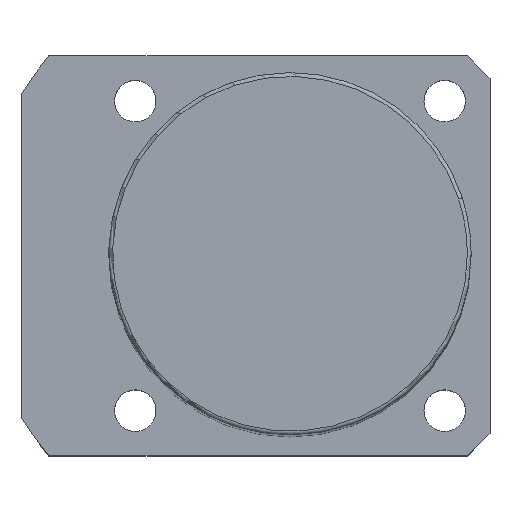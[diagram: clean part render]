
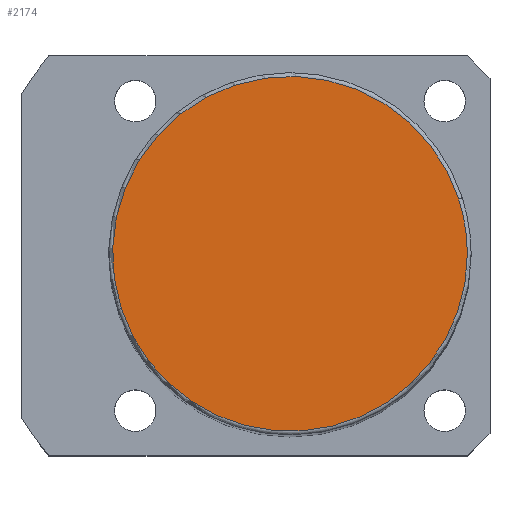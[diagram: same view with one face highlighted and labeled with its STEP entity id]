
A CAD part, top view. The second image highlights one B-rep face of the part: STEP entity #2174.
In plain terms, the highlighted planar face has unit normal (0, 0, 1).
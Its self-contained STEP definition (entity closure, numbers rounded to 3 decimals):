
#2107=CARTESIAN_POINT('',(22.35,7.262,169.0));
#2108=VERTEX_POINT('',#2107);
#2126=CARTESIAN_POINT('',(-22.35,-7.262,169.0));
#2127=VERTEX_POINT('',#2126);
#2135=CARTESIAN_POINT('',(0.0,0.0,169.0));
#2136=DIRECTION('',(0.0,0.0,1.0));
#2137=DIRECTION('',(1.0,0.0,0.0));
#2138=AXIS2_PLACEMENT_3D('',#2135,#2136,#2137);
#2139=CIRCLE('',#2138,23.5);
#2140=EDGE_CURVE('no 2139',#2108,#2127,#2139,.T.);
#2150=CARTESIAN_POINT('',(23.5,0.0,169.0));
#2151=VERTEX_POINT('',#2150);
#2152=CARTESIAN_POINT('',(0.0,0.0,169.0));
#2153=DIRECTION('',(0.0,0.0,1.0));
#2154=DIRECTION('',(1.0,0.0,0.0));
#2155=AXIS2_PLACEMENT_3D('',#2152,#2153,#2154);
#2156=CIRCLE('',#2155,23.5);
#2157=EDGE_CURVE('no 2148',#2151,#2108,#2156,.T.);
#2158=ORIENTED_EDGE('',*,*,#2157,.T.);
#2159=ORIENTED_EDGE('',*,*,#2140,.T.);
#2160=CARTESIAN_POINT('',(0.0,0.0,169.0));
#2161=DIRECTION('',(0.0,0.0,1.0));
#2162=DIRECTION('',(1.0,0.0,0.0));
#2163=AXIS2_PLACEMENT_3D('',#2160,#2161,#2162);
#2164=CIRCLE('',#2163,23.5);
#2165=EDGE_CURVE('no 2154',#2127,#2151,#2164,.T.);
#2166=ORIENTED_EDGE('',*,*,#2165,.T.);
#2167=EDGE_LOOP('',(#2158,#2159,#2166));
#2168=FACE_OUTER_BOUND('',#2167,.T.);
#2169=CARTESIAN_POINT('',(0.0,0.0,169.0));
#2170=DIRECTION('',(0.0,0.0,1.0));
#2171=DIRECTION('',(1.0,0.0,0.0));
#2172=AXIS2_PLACEMENT_3D('',#2169,#2170,#2171);
#2173=PLANE('',#2172);
#2174=ADVANCED_FACE('no 2141',(#2168),#2173,.T.);
